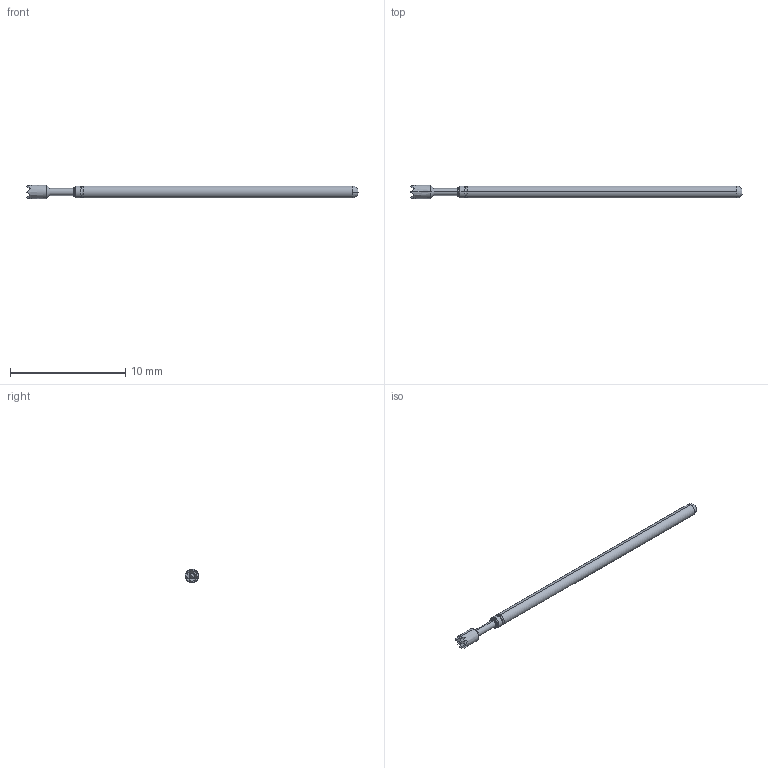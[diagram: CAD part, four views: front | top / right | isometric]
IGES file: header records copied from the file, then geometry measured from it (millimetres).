
Start section: SolidWorks IGES file using analytic representation for surfaces
Global section: file name: Z:\probe solid model mockups\Solidworks models\Parts\LFRE-1H RECD.IGS; native system: SolidWorks 2016; preprocessor: SolidWorks 2016; author: mlee; date: 180927.163202; units: inch
Bounding box: 28.78 x 1.19 x 1.19 mm (x, y, z)
Surface area: 92.3 mm2 (no closed solid volume)
Topology: 0 solids, 0 shells, 50 faces, 246 edges, 246 vertices
Faces by surface type: bspline 34, revolution 16
